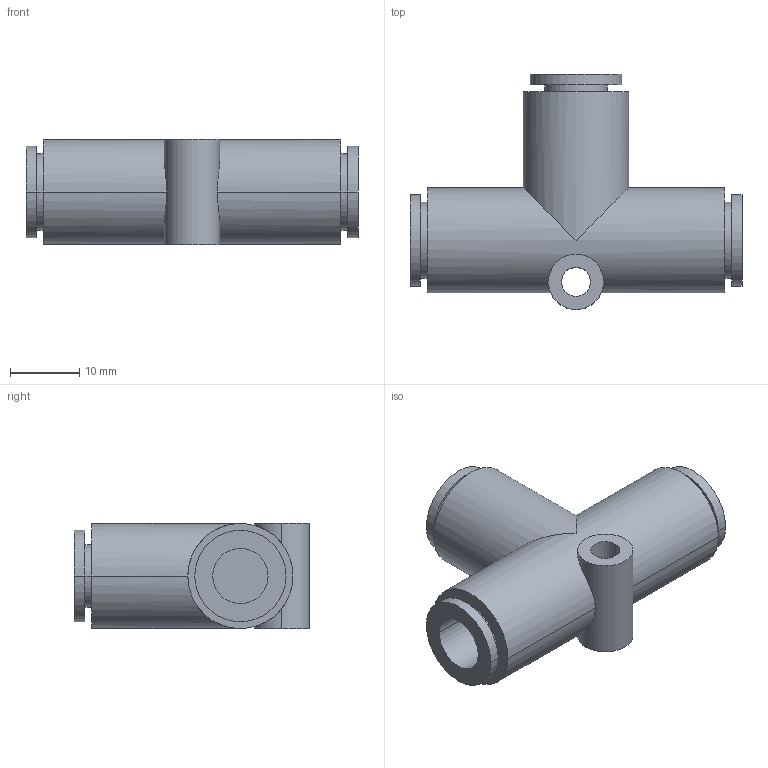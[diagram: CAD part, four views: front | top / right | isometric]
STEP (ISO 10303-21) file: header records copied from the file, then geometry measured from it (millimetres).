
FILE_DESCRIPTION( ( '' ), '1' );
FILE_NAME( 'G:/SMC狟婥/KQ2T08-06A.stp', '2023-03-07T03:32:44', ( '' ), ( '' ), ' ', ' ', ' ' );
FILE_SCHEMA( ( 'CONFIG_CONTROL_DESIGN' ) );
Length unit declared in the file: millimetre
Products named in the file (1): 1
Bounding box: 48 x 34 x 15.2 mm (x, y, z)
Volume: 9227.8 mm3; surface area: 5338.7 mm2
Topology: 1 solids, 1 shells, 41 faces, 90 edges, 60 vertices
Faces by surface type: cylinder 27, plane 14
Entity records: 1336 total; most frequent: CARTESIAN_POINT 334, DIRECTION 222, ORIENTED_EDGE 180, AXIS2_PLACEMENT_3D 96, EDGE_CURVE 90, VERTEX_POINT 60, EDGE_LOOP 52, CIRCLE 50
